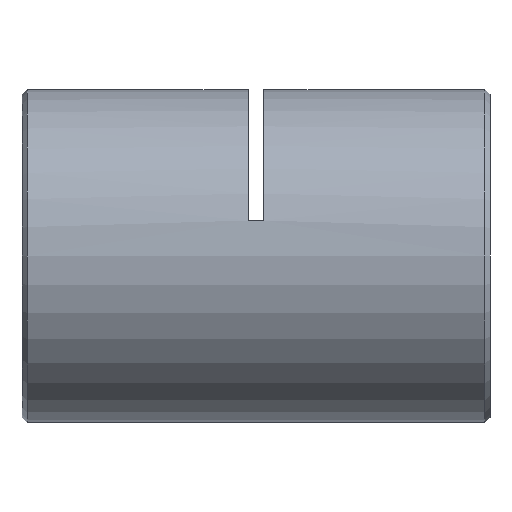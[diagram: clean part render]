
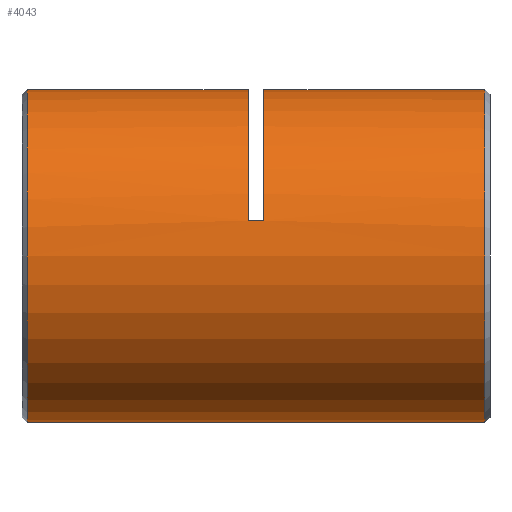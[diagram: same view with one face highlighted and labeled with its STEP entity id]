
A CAD part, left-side view. The second image highlights one B-rep face of the part: STEP entity #4043.
In plain terms, the highlighted cylindrical face has radius 16 mm (diameter 32 mm), a partial arc.
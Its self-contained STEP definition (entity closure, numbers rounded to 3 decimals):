
#111 = DIRECTION ( 'NONE',  ( 0., 1., 0. ) ) ;
#165 = VERTEX_POINT ( 'NONE', #6148 ) ;
#326 = LINE ( 'NONE', #2274, #4669 ) ;
#333 = VERTEX_POINT ( 'NONE', #1823 ) ;
#359 = CIRCLE ( 'NONE', #2996, 16. ) ;
#557 = VERTEX_POINT ( 'NONE', #4659 ) ;
#657 = DIRECTION ( 'NONE',  ( 0., 0., 1. ) ) ;
#985 = DIRECTION ( 'NONE',  ( 0., 0., -1. ) ) ;
#1005 = CIRCLE ( 'NONE', #1815, 16. ) ;
#1102 = AXIS2_PLACEMENT_3D ( 'NONE', #5571, #4748, #5701 ) ;
#1236 = VERTEX_POINT ( 'NONE', #4978 ) ;
#1258 = VERTEX_POINT ( 'NONE', #2542 ) ;
#1285 = DIRECTION ( 'NONE',  ( 0., 1., 0. ) ) ;
#1337 = CARTESIAN_POINT ( 'NONE',  ( 0., 44.75, 0. ) ) ;
#1357 = ORIENTED_EDGE ( 'NONE', *, *, #5650, .T. ) ;
#1402 = CIRCLE ( 'NONE', #4990, 16. ) ;
#1563 = CARTESIAN_POINT ( 'NONE',  ( 0., 0.75, 16. ) ) ;
#1591 = DIRECTION ( 'NONE',  ( 0., 1., 0. ) ) ;
#1619 = CARTESIAN_POINT ( 'NONE',  ( 0., 22., 0. ) ) ;
#1815 = AXIS2_PLACEMENT_3D ( 'NONE', #5060, #6101, #657 ) ;
#1821 = DIRECTION ( 'NONE',  ( 0., 1., 0. ) ) ;
#1823 = CARTESIAN_POINT ( 'NONE',  ( 0., 22., 16. ) ) ;
#2014 = EDGE_LOOP ( 'NONE', ( #4181, #3545, #1357, #2398, #2335, #4808, #5134, #2884 ) ) ;
#2151 = FACE_OUTER_BOUND ( 'NONE', #2014, .T. ) ;
#2274 = CARTESIAN_POINT ( 'NONE',  ( 0., 0., -16. ) ) ;
#2305 = VERTEX_POINT ( 'NONE', #1563 ) ;
#2335 = ORIENTED_EDGE ( 'NONE', *, *, #4445, .T. ) ;
#2398 = ORIENTED_EDGE ( 'NONE', *, *, #3957, .F. ) ;
#2542 = CARTESIAN_POINT ( 'NONE',  ( 0., 44.75, -16. ) ) ;
#2778 = CARTESIAN_POINT ( 'NONE',  ( -15.632, 22., 3.413 ) ) ;
#2884 = ORIENTED_EDGE ( 'NONE', *, *, #4737, .T. ) ;
#2996 = AXIS2_PLACEMENT_3D ( 'NONE', #1619, #111, #5531 ) ;
#3015 = CARTESIAN_POINT ( 'NONE',  ( -15.632, 22.75, 3.413 ) ) ;
#3260 = DIRECTION ( 'NONE',  ( 0., 1., 0. ) ) ;
#3415 = AXIS2_PLACEMENT_3D ( 'NONE', #6109, #1285, #5139 ) ;
#3545 = ORIENTED_EDGE ( 'NONE', *, *, #4919, .T. ) ;
#3627 = CYLINDRICAL_SURFACE ( 'NONE', #3415, 16. ) ;
#3957 = EDGE_CURVE ( 'NONE', #4769, #333, #359, .T. ) ;
#4043 = ADVANCED_FACE ( 'NONE', ( #2151 ), #3627, .T. ) ;
#4181 = ORIENTED_EDGE ( 'NONE', *, *, #4751, .F. ) ;
#4311 = LINE ( 'NONE', #4740, #5523 ) ;
#4445 = EDGE_CURVE ( 'NONE', #4769, #1236, #6016, .T. ) ;
#4659 = CARTESIAN_POINT ( 'NONE',  ( 0., 44.75, 16. ) ) ;
#4669 = VECTOR ( 'NONE', #3260, 1000. ) ;
#4737 = EDGE_CURVE ( 'NONE', #557, #1258, #1402, .T. ) ;
#4740 = CARTESIAN_POINT ( 'NONE',  ( 0., 0., 16. ) ) ;
#4748 = DIRECTION ( 'NONE',  ( 0., 1., 0. ) ) ;
#4751 = EDGE_CURVE ( 'NONE', #165, #1258, #326, .T. ) ;
#4769 = VERTEX_POINT ( 'NONE', #2778 ) ;
#4786 = CIRCLE ( 'NONE', #1102, 16. ) ;
#4808 = ORIENTED_EDGE ( 'NONE', *, *, #5823, .T. ) ;
#4919 = EDGE_CURVE ( 'NONE', #165, #2305, #4786, .T. ) ;
#4971 = DIRECTION ( 'NONE',  ( 0., 1., 0. ) ) ;
#4978 = CARTESIAN_POINT ( 'NONE',  ( -15.632, 23.5, 3.413 ) ) ;
#4990 = AXIS2_PLACEMENT_3D ( 'NONE', #1337, #5386, #985 ) ;
#5033 = CARTESIAN_POINT ( 'NONE',  ( 0., 0., 16. ) ) ;
#5060 = CARTESIAN_POINT ( 'NONE',  ( 0., 23.5, 0. ) ) ;
#5099 = VERTEX_POINT ( 'NONE', #5364 ) ;
#5134 = ORIENTED_EDGE ( 'NONE', *, *, #5214, .T. ) ;
#5139 = DIRECTION ( 'NONE',  ( 0., 0., 1. ) ) ;
#5214 = EDGE_CURVE ( 'NONE', #5099, #557, #5467, .T. ) ;
#5364 = CARTESIAN_POINT ( 'NONE',  ( 0., 23.5, 16. ) ) ;
#5386 = DIRECTION ( 'NONE',  ( 0., -1., 0. ) ) ;
#5467 = LINE ( 'NONE', #5033, #5624 ) ;
#5523 = VECTOR ( 'NONE', #1821, 1000. ) ;
#5531 = DIRECTION ( 'NONE',  ( 0., 0., 1. ) ) ;
#5571 = CARTESIAN_POINT ( 'NONE',  ( 0., 0.75, 0. ) ) ;
#5624 = VECTOR ( 'NONE', #4971, 1000. ) ;
#5650 = EDGE_CURVE ( 'NONE', #2305, #333, #4311, .T. ) ;
#5701 = DIRECTION ( 'NONE',  ( 0., 0., 1. ) ) ;
#5823 = EDGE_CURVE ( 'NONE', #1236, #5099, #1005, .T. ) ;
#6016 = LINE ( 'NONE', #3015, #6225 ) ;
#6101 = DIRECTION ( 'NONE',  ( 0., 1., 0. ) ) ;
#6109 = CARTESIAN_POINT ( 'NONE',  ( 0., 0., 0. ) ) ;
#6148 = CARTESIAN_POINT ( 'NONE',  ( 0., 0.75, -16. ) ) ;
#6225 = VECTOR ( 'NONE', #1591, 1000. ) ;
